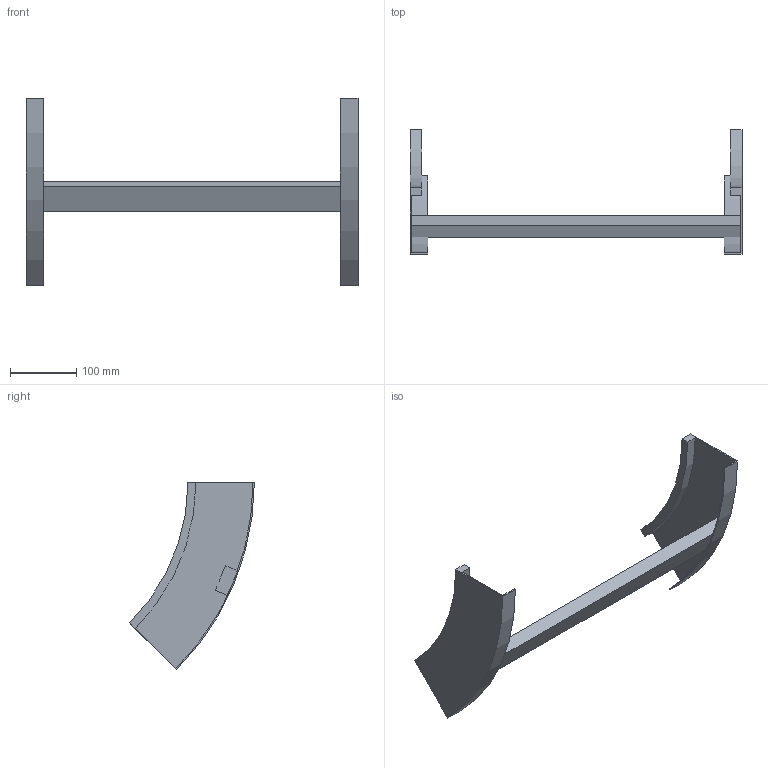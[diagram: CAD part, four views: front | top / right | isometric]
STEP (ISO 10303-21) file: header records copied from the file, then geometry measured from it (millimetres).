
FILE_DESCRIPTION (( 'STEP AP214' ), '1' );
FILE_NAME ('B2X31B3D500XX.step', '2025-03-20T10:05:20', ( '' ), ( '' ), 'SwSTEP 2.0', 'SolidWorks 2023', '' );
FILE_SCHEMA (( 'AUTOMOTIVE_DESIGN' ));
Length unit declared in the file: millimetre
Products named in the file (3): B2X31B3D500XX; B2_LONGH.SALITA_45°_H100_R300; TRAVERSINO_500
Assembly tree (3 placements, depth 2):
  B2X31B3D500XX
    B2_LONGH.SALITA_45°_H100_R300  x2
    TRAVERSINO_500
Bounding box: 500 x 187.87 x 282.84 mm (x, y, z)
Volume: 635340.6 mm3; surface area: 222277.5 mm2
Topology: 3 solids, 3 shells, 26 faces, 60 edges, 40 vertices
Faces by surface type: plane 18, cylinder 8
Entity records: 544 total; most frequent: DIRECTION 88, CARTESIAN_POINT 82, ORIENTED_EDGE 72, EDGE_CURVE 36, AXIS2_PLACEMENT_3D 30, LINE 28, VECTOR 28, VERTEX_POINT 24
